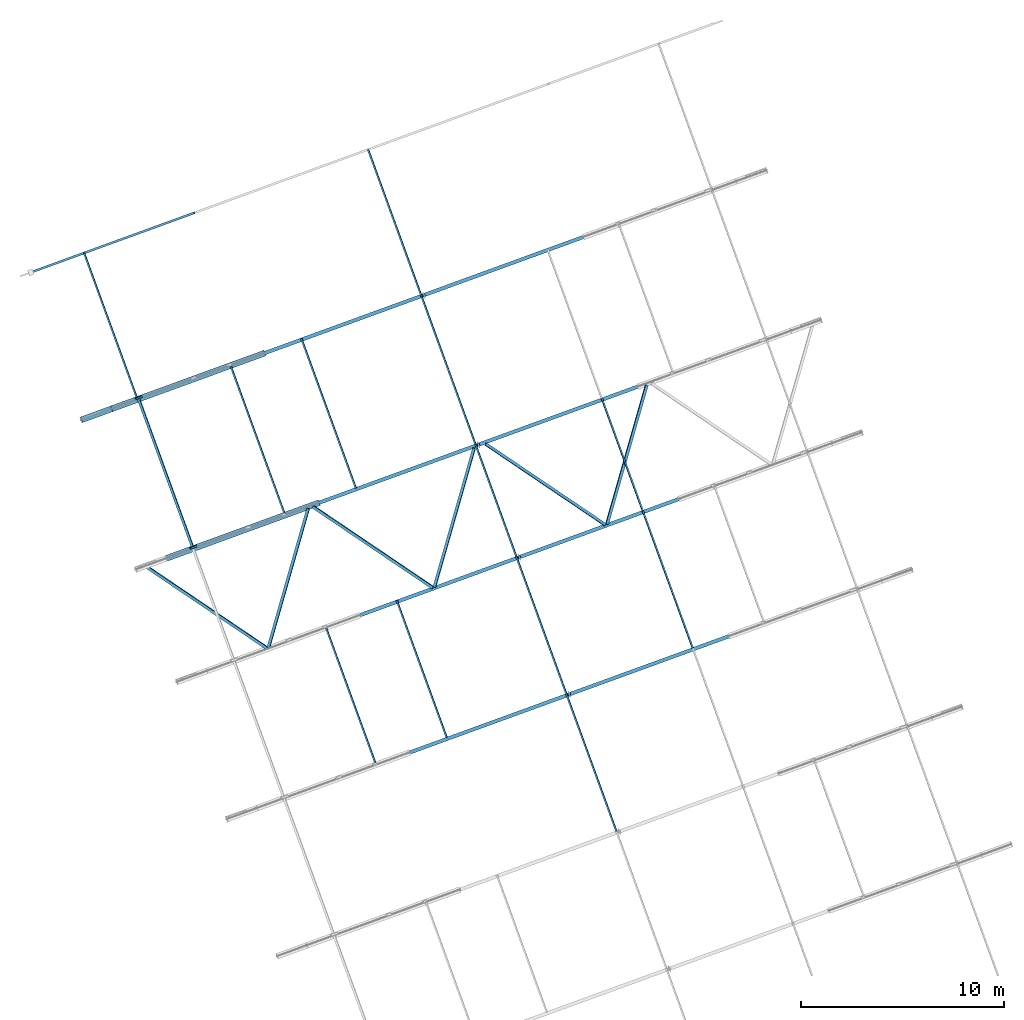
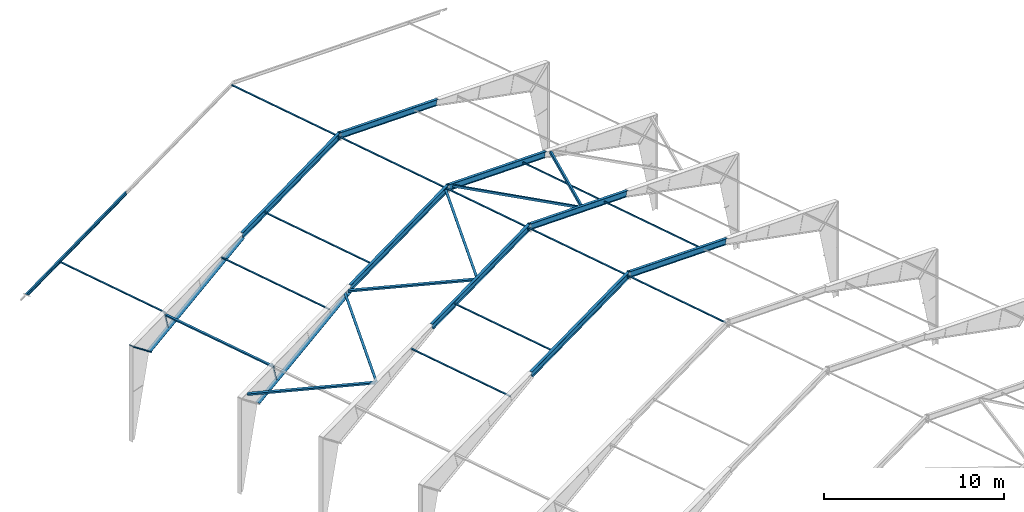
# One storey, part 3 of 17: 28 beams, 6 members, 9 openings, 34 elements without a shape of their own.
"""IFC4 building model written with IfcOpenShell, lengths in millimetres."""

from ifc_helpers import new_model, si_unit, direction, frame, origin_with_axes, place, context, subcontext, project, spatial, line, indexed_curve, outline, extrude, material, element, aggregate, save


model = new_model("IFC4")

# Units and contexts
model_context = context("Model", 3, precision=0.2, world=frame((203566.813, 116264.779, 0.0), z_axis=(0.0, 0.0, 1.0), x_axis=(1.0, 0.0, 0.0)), true_north=direction((-0.9396138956, -0.3422363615)))
body_context = subcontext(model_context, "Body", "Model", "MODEL_VIEW")
ifc_project = project(units=[si_unit("LENGTHUNIT", "METRE", prefix="MILLI"), si_unit("AREAUNIT", "SQUARE_METRE"), si_unit("VOLUMEUNIT", "CUBIC_METRE"), si_unit("MASSUNIT", "GRAM", prefix="KILO"), si_unit("TIMEUNIT", "SECOND"), si_unit("PLANEANGLEUNIT", "RADIAN"), si_unit("SOLIDANGLEUNIT", "STERADIAN"), si_unit("THERMODYNAMICTEMPERATUREUNIT", "DEGREE_CELSIUS"), si_unit("LUMINOUSINTENSITYUNIT", "LUMEN")], contexts=[model_context])

# Site, building, storey
site_placement = place(None, origin_with_axes())
site = spatial("IfcSite", under=ifc_project, at=site_placement, Name="Nobelprojektet", CompositionType="ELEMENT")
building_placement = place(site_placement, origin_with_axes())
building = spatial("IfcBuilding", under=site, at=building_placement, Name="Hall B", CompositionType="ELEMENT")
storey_placement = place(building_placement, frame((0.0, 0.0, 136000.0), z_axis=(0.0, 0.0, 1.0), x_axis=(1.0, 0.0, 0.0)))
storey = spatial("IfcBuildingStorey", under=building, at=storey_placement, Name="Plan_2", CompositionType="ELEMENT", Elevation=136000.0)

# Assembly, beam, voiding feature
assembly_1_placement = place(storey_placement, frame((128431.24503, 173667.03377, 3578.63666), z_axis=(-0.3422371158, 0.9396136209, 1.3e-09), x_axis=(0.9075966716, 0.3305755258, 0.2588206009)))
assembly_1 = element("IfcElementAssembly", 1, at=assembly_1_placement, inside=storey, Name="BEF. STOMME", PredefinedType="NOTDEFINED")
ifc_material = material(Name="S355J2", Category="STEEL")
beam_1_placement = place(assembly_1_placement, origin_with_axes())
beam_1 = element("IfcBeam", 2, at=beam_1_placement, material=ifc_material, Name="BEF. STOMME", PredefinedType="NOTDEFINED", context=body_context, shape_type="SolidModel", body=[
    extrude(outline(indexed_curve([(-55.0, -110.0), (55.0, -110.0), (55.0, -100.8), (2.95, -100.8), (2.95, 100.8), (55.0, 100.8), (55.0, 110.0), (-55.0, 110.0), (-55.0, 100.8), (-2.95, 100.8), (-2.95, -100.8), (-55.0, -100.8)], segments=[line(1, 2, 3, 4, 5, 6, 7, 8, 9, 10, 11, 12, 1)])), frame((0.0, 0.0, 0.0), z_axis=(-1.0, 0.0, 0.0), x_axis=(0.0, 0.0, 1.0)), (0.0, 0.0, -1.0), 8966.09461),
])
voiding_feature_1_placement = place(beam_1_placement, frame((0.00035, 110.0, 0.00069), z_axis=(0.0, 0.0, -1.0), x_axis=(1.0, 0.0, 0.0)))
element("IfcVoidingFeature", 3, at=voiding_feature_1_placement, cuts=beam_1, Name="CUTPART", PredefinedType="HOLE", context=body_context, shape_type="SolidModel", body=[
    extrude(outline(indexed_curve([(0.0, 0.0), (168.81121, 0.0), (0.0, 220.0)], segments=[line(1, 2, 3, 1)])), frame((0.0, 0.0, 57.5), z_axis=(0.0, 0.0, 1.0), x_axis=(1.0, 0.0, 0.0)), (0.0, 0.0, -1.0), 115.0),
])
aggregate(assembly_1, [beam_1])

# Assembly, beam
assembly_2_placement = place(storey_placement, frame((154917.13274, 152902.59492, 8316.31212), z_axis=(-0.2431885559, -0.088576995, 0.9659262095), x_axis=(-0.3422371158, 0.9396136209, 1.3e-09)))
assembly_2 = element("IfcElementAssembly", 4, at=assembly_2_placement, inside=storey, Name="BEF. STOMME", PredefinedType="NOTDEFINED")
beam_2_placement = place(assembly_2_placement, origin_with_axes())
beam_2 = element("IfcBeam", 5, at=beam_2_placement, material=ifc_material, Name="BEF. STOMME", PredefinedType="NOTDEFINED", context=body_context, shape_type="SolidModel", body=[
    extrude(outline(indexed_curve([(-40.0, -40.0), (40.0, -40.0), (40.0, 40.0), (-40.0, 40.0)], segments=[line(1, 2, 3, 4, 1)]), holes=[indexed_curve([(-36.0, -36.0), (-36.0, 36.0), (36.0, 36.0), (36.0, -36.0)], segments=[line(1, 2, 3, 4, 1)])]), frame((0.0, 0.0, 0.0), z_axis=(-1.0, 0.0, 0.0), x_axis=(0.0, 0.0, 1.0)), (0.0, 0.0, -1.0), 7199.99997),
])
aggregate(assembly_2, [beam_2])

assembly_3_placement = place(storey_placement, frame((145507.91711, 149475.45982, 5452.54212), z_axis=(-0.2431885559, -0.088576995, 0.9659262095), x_axis=(-0.3422371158, 0.9396136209, 1.3e-09)))
assembly_3 = element("IfcElementAssembly", 6, at=assembly_3_placement, inside=storey, Name="BEF. STOMME", PredefinedType="NOTDEFINED")
beam_3_placement = place(assembly_3_placement, origin_with_axes())
beam_3 = element("IfcBeam", 7, at=beam_3_placement, material=ifc_material, Name="BEF. STOMME", PredefinedType="NOTDEFINED", context=body_context, shape_type="SolidModel", body=[
    extrude(outline(indexed_curve([(-40.0, -40.0), (40.0, -40.0), (40.0, 40.0), (-40.0, 40.0)], segments=[line(1, 2, 3, 4, 1)]), holes=[indexed_curve([(-36.0, -36.0), (-36.0, 36.0), (36.0, 36.0), (36.0, -36.0)], segments=[line(1, 2, 3, 4, 1)])]), frame((0.0, 0.0, 0.0), z_axis=(-1.0, 0.0, 0.0), x_axis=(0.0, 0.0, 1.0)), (0.0, 0.0, -1.0), 7199.99997),
])
aggregate(assembly_3, [beam_3])

assembly_4_placement = place(storey_placement, frame((149018.14447, 150753.99608, 6505.31212), z_axis=(-0.2431885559, -0.088576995, 0.9659262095), x_axis=(-0.3422371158, 0.9396136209, 1.3e-09)))
assembly_4 = element("IfcElementAssembly", 8, at=assembly_4_placement, inside=storey, Name="BEF. STOMME", PredefinedType="NOTDEFINED")
beam_4_placement = place(assembly_4_placement, origin_with_axes())
beam_4 = element("IfcBeam", 9, at=beam_4_placement, material=ifc_material, Name="BEF. STOMME", PredefinedType="NOTDEFINED", context=body_context, shape_type="SolidModel", body=[
    extrude(outline(indexed_curve([(-40.0, -40.0), (40.0, -40.0), (40.0, 40.0), (-40.0, 40.0)], segments=[line(1, 2, 3, 4, 1)]), holes=[indexed_curve([(-36.0, -36.0), (-36.0, 36.0), (36.0, 36.0), (36.0, -36.0)], segments=[line(1, 2, 3, 4, 1)])]), frame((0.0, 0.0, 0.0), z_axis=(-1.0, 0.0, 0.0), x_axis=(0.0, 0.0, 1.0)), (0.0, 0.0, -1.0), 7199.99997),
])
aggregate(assembly_4, [beam_4])

assembly_5_placement = place(storey_placement, frame((161141.47181, 155169.69688, 6505.31233), z_axis=(0.9075974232, 0.3305758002, -0.2588176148), x_axis=(-0.3422371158, 0.9396136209, 1.3e-09)))
assembly_5 = element("IfcElementAssembly", 10, at=assembly_5_placement, inside=storey, Name="BEF. STOMME", PredefinedType="NOTDEFINED")
beam_5_placement = place(assembly_5_placement, origin_with_axes())
beam_5 = element("IfcBeam", 11, at=beam_5_placement, material=ifc_material, Name="BEF. STOMME", PredefinedType="NOTDEFINED", context=body_context, shape_type="SolidModel", body=[
    extrude(outline(indexed_curve([(-40.0, -40.0), (40.0, -40.0), (40.0, 40.0), (-40.0, 40.0)], segments=[line(1, 2, 3, 4, 1)]), holes=[indexed_curve([(-36.0, -36.0), (-36.0, 36.0), (36.0, 36.0), (36.0, -36.0)], segments=[line(1, 2, 3, 4, 1)])]), frame((0.0, 0.0, 0.0), z_axis=(-1.0, 0.0, 0.0), x_axis=(0.0, 0.0, 1.0)), (0.0, 0.0, -1.0), 7199.99997),
])
aggregate(assembly_5, [beam_5])

assembly_6_placement = place(storey_placement, frame((150435.19547, 165207.7749, 8316.31212), z_axis=(-0.2431885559, -0.088576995, 0.9659262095), x_axis=(-0.3422371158, 0.9396136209, 1.3e-09)))
assembly_6 = element("IfcElementAssembly", 12, at=assembly_6_placement, inside=storey, Name="BEF. STOMME", PredefinedType="NOTDEFINED")
beam_6_placement = place(assembly_6_placement, origin_with_axes())
beam_6 = element("IfcBeam", 13, at=beam_6_placement, material=ifc_material, Name="BEF. STOMME", PredefinedType="NOTDEFINED", context=body_context, shape_type="SolidModel", body=[
    extrude(outline(indexed_curve([(-40.0, -40.0), (40.0, -40.0), (40.0, 40.0), (-40.0, 40.0)], segments=[line(1, 2, 3, 4, 1)]), holes=[indexed_curve([(-36.0, -36.0), (-36.0, 36.0), (36.0, 36.0), (36.0, -36.0)], segments=[line(1, 2, 3, 4, 1)])]), frame((0.0, 0.0, 0.0), z_axis=(-1.0, 0.0, 0.0), x_axis=(0.0, 0.0, 1.0)), (0.0, 0.0, -1.0), 7849.99997),
])
aggregate(assembly_6, [beam_6])

assembly_7_placement = place(storey_placement, frame((136517.7597, 160063.0399, 4144.4785), z_axis=(-0.2431885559, -0.088576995, 0.9659262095), x_axis=(-0.3422371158, 0.9396136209, 1.3e-09)))
assembly_7 = element("IfcElementAssembly", 14, at=assembly_7_placement, inside=storey, Name="BEF. STOMME", PredefinedType="NOTDEFINED")
beam_7_placement = place(assembly_7_placement, origin_with_axes())
beam_7 = element("IfcBeam", 15, at=beam_7_placement, material=ifc_material, Name="BEF. STOMME", PredefinedType="NOTDEFINED", context=body_context, shape_type="SolidModel", body=[
    extrude(outline(indexed_curve([(-60.0, -60.0), (60.0, -60.0), (60.0, 60.0), (-60.0, 60.0)], segments=[line(1, 2, 3, 4, 1)]), holes=[indexed_curve([(-55.0, -55.0), (-55.0, 55.0), (55.0, 55.0), (55.0, -55.0)], segments=[line(1, 2, 3, 4, 1)])]), frame((0.0, 0.0, 0.0), z_axis=(-1.0, 0.0, 0.0), x_axis=(0.0, 0.0, 1.0)), (0.0, 0.0, -1.0), 7849.99997),
])
aggregate(assembly_7, [beam_7])

assembly_8_placement = place(storey_placement, frame((141025.97984, 161780.6398, 5452.54212), z_axis=(-0.2431885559, -0.088576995, 0.9659262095), x_axis=(-0.3422371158, 0.9396136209, 1.3e-09)))
assembly_8 = element("IfcElementAssembly", 16, at=assembly_8_placement, inside=storey, Name="BEF. STOMME", PredefinedType="NOTDEFINED")
beam_8_placement = place(assembly_8_placement, origin_with_axes())
beam_8 = element("IfcBeam", 17, at=beam_8_placement, material=ifc_material, Name="BEF. STOMME", PredefinedType="NOTDEFINED", context=body_context, shape_type="SolidModel", body=[
    extrude(outline(indexed_curve([(-40.0, -40.0), (40.0, -40.0), (40.0, 40.0), (-40.0, 40.0)], segments=[line(1, 2, 3, 4, 1)]), holes=[indexed_curve([(-36.0, -36.0), (-36.0, 36.0), (36.0, 36.0), (36.0, -36.0)], segments=[line(1, 2, 3, 4, 1)])]), frame((0.0, 0.0, 0.0), z_axis=(-1.0, 0.0, 0.0), x_axis=(0.0, 0.0, 1.0)), (0.0, 0.0, -1.0), 7849.99997),
])
aggregate(assembly_8, [beam_8])

assembly_9_placement = place(storey_placement, frame((144536.2072, 163059.17606, 6505.31212), z_axis=(-0.2431885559, -0.088576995, 0.9659262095), x_axis=(-0.3422371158, 0.9396136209, 1.3e-09)))
assembly_9 = element("IfcElementAssembly", 18, at=assembly_9_placement, inside=storey, Name="BEF. STOMME", PredefinedType="NOTDEFINED")
beam_9_placement = place(assembly_9_placement, origin_with_axes())
beam_9 = element("IfcBeam", 19, at=beam_9_placement, material=ifc_material, Name="BEF. STOMME", PredefinedType="NOTDEFINED", context=body_context, shape_type="SolidModel", body=[
    extrude(outline(indexed_curve([(-40.0, -40.0), (40.0, -40.0), (40.0, 40.0), (-40.0, 40.0)], segments=[line(1, 2, 3, 4, 1)]), holes=[indexed_curve([(-36.0, -36.0), (-36.0, 36.0), (36.0, 36.0), (36.0, -36.0)], segments=[line(1, 2, 3, 4, 1)])]), frame((0.0, 0.0, 0.0), z_axis=(-1.0, 0.0, 0.0), x_axis=(0.0, 0.0, 1.0)), (0.0, 0.0, -1.0), 7849.99997),
])
aggregate(assembly_9, [beam_9])

assembly_10_placement = place(storey_placement, frame((157381.23998, 146137.37685, 8316.31212), z_axis=(-0.2431885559, -0.088576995, 0.9659262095), x_axis=(-0.3422371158, 0.9396136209, 1.3e-09)))
assembly_10 = element("IfcElementAssembly", 20, at=assembly_10_placement, inside=storey, Name="BEF. STOMME", PredefinedType="NOTDEFINED")
beam_10_placement = place(assembly_10_placement, origin_with_axes())
beam_10 = element("IfcBeam", 21, at=beam_10_placement, material=ifc_material, Name="BEF. STOMME", PredefinedType="NOTDEFINED", context=body_context, shape_type="SolidModel", body=[
    extrude(outline(indexed_curve([(-40.0, -40.0), (40.0, -40.0), (40.0, 40.0), (-40.0, 40.0)], segments=[line(1, 2, 3, 4, 1)]), holes=[indexed_curve([(-36.0, -36.0), (-36.0, 36.0), (36.0, 36.0), (36.0, -36.0)], segments=[line(1, 2, 3, 4, 1)])]), frame((0.0, 0.0, 0.0), z_axis=(-1.0, 0.0, 0.0), x_axis=(0.0, 0.0, 1.0)), (0.0, 0.0, -1.0), 7199.99997),
])
aggregate(assembly_10, [beam_10])

assembly_11_placement = place(storey_placement, frame((152453.02551, 159667.81298, 8316.31212), z_axis=(-0.2431885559, -0.088576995, 0.9659262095), x_axis=(-0.3422371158, 0.9396136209, 1.3e-09)))
assembly_11 = element("IfcElementAssembly", 22, at=assembly_11_placement, inside=storey, Name="BEF. STOMME", PredefinedType="NOTDEFINED")
beam_11_placement = place(assembly_11_placement, origin_with_axes())
beam_11 = element("IfcBeam", 23, at=beam_11_placement, material=ifc_material, Name="BEF. STOMME", PredefinedType="NOTDEFINED", context=body_context, shape_type="SolidModel", body=[
    extrude(outline(indexed_curve([(-40.0, -40.0), (40.0, -40.0), (40.0, 40.0), (-40.0, 40.0)], segments=[line(1, 2, 3, 4, 1)]), holes=[indexed_curve([(-36.0, -36.0), (-36.0, 36.0), (36.0, 36.0), (36.0, -36.0)], segments=[line(1, 2, 3, 4, 1)])]), frame((0.0, 0.0, 0.0), z_axis=(-1.0, 0.0, 0.0), x_axis=(0.0, 0.0, 1.0)), (0.0, 0.0, -1.0), 5899.99997),
])
aggregate(assembly_11, [beam_11])

assembly_12_placement = place(storey_placement, frame((158677.36457, 161934.91496, 6505.31233), z_axis=(0.9075974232, 0.3305758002, -0.2588176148), x_axis=(-0.3422371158, 0.9396136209, 1.3e-09)))
assembly_12 = element("IfcElementAssembly", 24, at=assembly_12_placement, inside=storey, Name="BEF. STOMME", PredefinedType="NOTDEFINED")
beam_12_placement = place(assembly_12_placement, origin_with_axes())
beam_12 = element("IfcBeam", 25, at=beam_12_placement, material=ifc_material, Name="BEF. STOMME", PredefinedType="NOTDEFINED", context=body_context, shape_type="SolidModel", body=[
    extrude(outline(indexed_curve([(-40.0, -40.0), (40.0, -40.0), (40.0, 40.0), (-40.0, 40.0)], segments=[line(1, 2, 3, 4, 1)]), holes=[indexed_curve([(-36.0, -36.0), (-36.0, 36.0), (36.0, 36.0), (36.0, -36.0)], segments=[line(1, 2, 3, 4, 1)])]), frame((0.0, 0.0, 0.0), z_axis=(-1.0, 0.0, 0.0), x_axis=(0.0, 0.0, 1.0)), (0.0, 0.0, -1.0), 5899.99997),
])
aggregate(assembly_12, [beam_12])

assembly_13_placement = place(storey_placement, frame((147772.93295, 172517.02925, 8316.31212), z_axis=(-0.2431885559, -0.088576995, 0.9659262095), x_axis=(-0.3422371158, 0.9396136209, 1.3e-09)))
assembly_13 = element("IfcElementAssembly", 26, at=assembly_13_placement, inside=storey, Name="BEF. STOMME", PredefinedType="NOTDEFINED")
beam_13_placement = place(assembly_13_placement, origin_with_axes())
beam_13 = element("IfcBeam", 27, at=beam_13_placement, material=ifc_material, Name="BEF. STOMME", PredefinedType="NOTDEFINED", context=body_context, shape_type="SolidModel", body=[
    extrude(outline(indexed_curve([(-40.0, -40.0), (40.0, -40.0), (40.0, 40.0), (-40.0, 40.0)], segments=[line(1, 2, 3, 4, 1)]), holes=[indexed_curve([(-36.0, -36.0), (-36.0, 36.0), (36.0, 36.0), (36.0, -36.0)], segments=[line(1, 2, 3, 4, 1)])]), frame((0.0, 0.0, 0.0), z_axis=(-1.0, 0.0, 0.0), x_axis=(0.0, 0.0, 1.0)), (0.0, 0.0, -1.0), 7699.99997),
])
aggregate(assembly_13, [beam_13])

assembly_14_placement = place(storey_placement, frame((133772.54906, 167417.64489, 4350.33212), z_axis=(-0.2431885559, -0.088576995, 0.9659262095), x_axis=(-0.3422371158, 0.9396136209, 1.3e-09)))
assembly_14 = element("IfcElementAssembly", 28, at=assembly_14_placement, inside=storey, Name="BEF. STOMME", PredefinedType="NOTDEFINED")
beam_14_placement = place(assembly_14_placement, origin_with_axes())
beam_14 = element("IfcBeam", 29, at=beam_14_placement, material=ifc_material, Name="BEF. STOMME", PredefinedType="NOTDEFINED", context=body_context, shape_type="SolidModel", body=[
    extrude(outline(indexed_curve([(-40.0, -40.0), (40.0, -40.0), (40.0, 40.0), (-40.0, 40.0)], segments=[line(1, 2, 3, 4, 1)]), holes=[indexed_curve([(-36.0, -36.0), (-36.0, 36.0), (36.0, 36.0), (36.0, -36.0)], segments=[line(1, 2, 3, 4, 1)])]), frame((0.0, 0.0, 0.0), z_axis=(-1.0, 0.0, 0.0), x_axis=(0.0, 0.0, 1.0)), (0.0, 0.0, -1.0), 7699.99997),
])
aggregate(assembly_14, [beam_14])

assembly_15_placement = place(storey_placement, frame((134242.71401, 159160.45447, 3677.93853), z_axis=(-0.5078136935, -0.8232990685, -0.2535821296), x_axis=(0.8186525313, -0.5528393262, 0.155488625)))
assembly_15 = element("IfcElementAssembly", 30, at=assembly_15_placement, inside=storey, Name="BEFINTLIG", PredefinedType="NOTDEFINED")
beam_15_placement = place(assembly_15_placement, origin_with_axes())
beam_15 = element("IfcBeam", 31, at=beam_15_placement, material=ifc_material, Name="BEFINTLIG", PredefinedType="NOTDEFINED", context=body_context, shape_type="SolidModel", body=[
    extrude(outline(indexed_curve([(-70.0, -70.0), (70.0, -70.0), (70.0, 70.0), (-70.0, 70.0)], segments=[line(1, 2, 3, 4, 1)]), holes=[indexed_curve([(-65.0, -65.0), (-65.0, 65.0), (65.0, 65.0), (65.0, -65.0)], segments=[line(1, 2, 3, 4, 1)])]), frame((0.0, 0.0, 0.0), z_axis=(-1.0, 0.0, 0.0), x_axis=(0.0, 0.0, 1.0)), (0.0, 0.0, -1.0), 7216.41212),
])
aggregate(assembly_15, [beam_15])

assembly_16_placement = place(storey_placement, frame((142185.66991, 162052.32074, 5942.85229), z_axis=(-0.9362150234, 0.2979418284, -0.1863654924), x_axis=(-0.2713273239, -0.9498445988, -0.155488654)))
assembly_16 = element("IfcElementAssembly", 32, at=assembly_16_placement, inside=storey, Name="BEFINTLIG", PredefinedType="NOTDEFINED")
beam_16_placement = place(assembly_16_placement, origin_with_axes())
beam_16 = element("IfcBeam", 33, at=beam_16_placement, material=ifc_material, Name="BEFINTLIG", PredefinedType="NOTDEFINED", context=body_context, shape_type="SolidModel", body=[
    extrude(outline(indexed_curve([(-70.0, -70.0), (70.0, -70.0), (70.0, 70.0), (-70.0, 70.0)], segments=[line(1, 2, 3, 4, 1)]), holes=[indexed_curve([(-65.0, -65.0), (-65.0, 65.0), (65.0, 65.0), (65.0, -65.0)], segments=[line(1, 2, 3, 4, 1)])]), frame((0.0, 0.0, 0.0), z_axis=(-1.0, 0.0, 0.0), x_axis=(0.0, 0.0, 1.0)), (0.0, 0.0, -1.0), 7216.41212),
])
aggregate(assembly_16, [beam_16])

assembly_17_placement = place(storey_placement, frame((142423.63852, 162140.20695, 6000.53853), z_axis=(-0.5078136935, -0.8232990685, -0.2535821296), x_axis=(0.8186525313, -0.5528393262, 0.155488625)))
assembly_17 = element("IfcElementAssembly", 34, at=assembly_17_placement, inside=storey, Name="BEFINTLIG", PredefinedType="NOTDEFINED")
beam_17_placement = place(assembly_17_placement, origin_with_axes())
beam_17 = element("IfcBeam", 35, at=beam_17_placement, material=ifc_material, Name="BEFINTLIG", PredefinedType="NOTDEFINED", context=body_context, shape_type="SolidModel", body=[
    extrude(outline(indexed_curve([(-70.0, -70.0), (70.0, -70.0), (70.0, 70.0), (-70.0, 70.0)], segments=[line(1, 2, 3, 4, 1)]), holes=[indexed_curve([(-65.0, -65.0), (-65.0, 65.0), (65.0, 65.0), (65.0, -65.0)], segments=[line(1, 2, 3, 4, 1)])]), frame((0.0, 0.0, 0.0), z_axis=(-1.0, 0.0, 0.0), x_axis=(0.0, 0.0, 1.0)), (0.0, 0.0, -1.0), 7216.41212),
])
aggregate(assembly_17, [beam_17])

assembly_18_placement = place(storey_placement, frame((150366.59443, 165032.07322, 8265.45229), z_axis=(-0.9362150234, 0.2979418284, -0.1863654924), x_axis=(-0.2713273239, -0.9498445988, -0.155488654)))
assembly_18 = element("IfcElementAssembly", 36, at=assembly_18_placement, inside=storey, Name="BEFINTLIG", PredefinedType="NOTDEFINED")
beam_18_placement = place(assembly_18_placement, origin_with_axes())
beam_18 = element("IfcBeam", 37, at=beam_18_placement, material=ifc_material, Name="BEFINTLIG", PredefinedType="NOTDEFINED", context=body_context, shape_type="SolidModel", body=[
    extrude(outline(indexed_curve([(-70.0, -70.0), (70.0, -70.0), (70.0, 70.0), (-70.0, 70.0)], segments=[line(1, 2, 3, 4, 1)]), holes=[indexed_curve([(-65.0, -65.0), (-65.0, 65.0), (65.0, 65.0), (65.0, -65.0)], segments=[line(1, 2, 3, 4, 1)])]), frame((0.0, 0.0, 0.0), z_axis=(-1.0, 0.0, 0.0), x_axis=(0.0, 0.0, 1.0)), (0.0, 0.0, -1.0), 7216.41212),
])
aggregate(assembly_18, [beam_18])

assembly_19_placement = place(storey_placement, frame((158868.25346, 168129.85787, 6000.53853), z_axis=(-0.9183547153, 0.3038432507, 0.2535821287), x_axis=(-0.271327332, -0.9498446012, 0.155488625)))
assembly_19 = element("IfcElementAssembly", 38, at=assembly_19_placement, inside=storey, Name="BEFINTLIG", PredefinedType="NOTDEFINED")
beam_19_placement = place(assembly_19_placement, origin_with_axes())
beam_19 = element("IfcBeam", 39, at=beam_19_placement, material=ifc_material, Name="BEFINTLIG", PredefinedType="NOTDEFINED", context=body_context, shape_type="SolidModel", body=[
    extrude(outline(indexed_curve([(-70.0, -70.0), (70.0, -70.0), (70.0, 70.0), (-70.0, 70.0)], segments=[line(1, 2, 3, 4, 1)]), holes=[indexed_curve([(-65.0, -65.0), (-65.0, 65.0), (65.0, 65.0), (65.0, -65.0)], segments=[line(1, 2, 3, 4, 1)])]), frame((0.0, 0.0, 0.0), z_axis=(-1.0, 0.0, 0.0), x_axis=(0.0, 0.0, 1.0)), (0.0, 0.0, -1.0), 7216.41212),
])
aggregate(assembly_19, [beam_19])

assembly_20_placement = place(storey_placement, frame((150926.07607, 165235.85419, 8265.45229), z_axis=(-0.5252856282, -0.8302667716, 0.1863654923), x_axis=(0.8186525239, -0.5528393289, -0.155488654)))
assembly_20 = element("IfcElementAssembly", 40, at=assembly_20_placement, inside=storey, Name="BEFINTLIG", PredefinedType="NOTDEFINED")
beam_20_placement = place(assembly_20_placement, origin_with_axes())
beam_20 = element("IfcBeam", 41, at=beam_20_placement, material=ifc_material, Name="BEFINTLIG", PredefinedType="NOTDEFINED", context=body_context, shape_type="SolidModel", body=[
    extrude(outline(indexed_curve([(-70.0, -70.0), (70.0, -70.0), (70.0, 70.0), (-70.0, 70.0)], segments=[line(1, 2, 3, 4, 1)]), holes=[indexed_curve([(-65.0, -65.0), (-65.0, 65.0), (65.0, 65.0), (65.0, -65.0)], segments=[line(1, 2, 3, 4, 1)])]), frame((0.0, 0.0, 0.0), z_axis=(-1.0, 0.0, 0.0), x_axis=(0.0, 0.0, 1.0)), (0.0, 0.0, -1.0), 7216.41212),
])
aggregate(assembly_20, [beam_20])

# Assembly, beam, voiding feature
assembly_21_placement = place(storey_placement, frame((147164.10401, 150014.91477, 6043.94851), z_axis=(-0.3422371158, 0.9396136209, 1.3e-09), x_axis=(0.9075966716, 0.3305755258, 0.2588206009)))
assembly_21 = element("IfcElementAssembly", 42, at=assembly_21_placement, inside=storey, Name="BEF. STOMME", PredefinedType="NOTDEFINED")
beam_21_placement = place(assembly_21_placement, origin_with_axes())
beam_21 = element("IfcBeam", 43, at=beam_21_placement, material=ifc_material, Name="BEF. STOMME", PredefinedType="NOTDEFINED", context=body_context, shape_type="SolidModel", body=[
    extrude(outline(indexed_curve([(-90.0, -200.0), (90.0, -200.0), (90.0, -186.5), (4.3, -186.5), (4.3, 186.5), (90.0, 186.5), (90.0, 200.0), (-90.0, 200.0), (-90.0, 186.5), (-4.3, 186.5), (-4.3, -186.5), (-90.0, -186.5)], segments=[line(1, 2, 3, 4, 5, 6, 7, 8, 9, 10, 11, 12, 1)])), frame((0.0, 0.0, 0.0), z_axis=(-1.0, 0.0, 0.0), x_axis=(0.0, 0.0, 1.0)), (0.0, 0.0, -1.0), 8807.09025),
])
voiding_feature_2_placement = place(beam_21_placement, frame((123203.12855, 35179.97993, 50983.12117), z_axis=(0.9075574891, 0.2431808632, -0.3423484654), x_axis=(0.252427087, 0.3355889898, 0.9075574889)))
element("IfcVoidingFeature", 44, at=voiding_feature_2_placement, cuts=beam_21, Name="CUTPART", PredefinedType="HOLE", context=body_context, shape_type="SolidModel", body=[
    extrude(outline(indexed_curve([(0.0, 0.0), (180.00355, 0.0), (71.46317, 405.07559), (0.0, 400.0)], segments=[line(1, 2, 3, 4, 1)])), frame((0.0, 0.0, 92.5), z_axis=(0.0, 0.0, 1.0), x_axis=(1.0, 0.0, 0.0)), (0.0, 0.0, -1.0), 185.0),
])
aggregate(assembly_21, [beam_21])

assembly_22_placement = place(storey_placement, frame((144699.99677, 156780.13284, 6043.94851), z_axis=(-0.3422371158, 0.9396136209, 1.3e-09), x_axis=(0.9075966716, 0.3305755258, 0.2588206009)))
assembly_22 = element("IfcElementAssembly", 45, at=assembly_22_placement, inside=storey, Name="BEF. STOMME", PredefinedType="NOTDEFINED")
beam_22_placement = place(assembly_22_placement, origin_with_axes())
beam_22 = element("IfcBeam", 46, at=beam_22_placement, material=ifc_material, Name="BEF. STOMME", PredefinedType="NOTDEFINED", context=body_context, shape_type="SolidModel", body=[
    extrude(outline(indexed_curve([(-90.0, -200.0), (90.0, -200.0), (90.0, -186.5), (4.3, -186.5), (4.3, 186.5), (90.0, 186.5), (90.0, 200.0), (-90.0, 200.0), (-90.0, 186.5), (-4.3, 186.5), (-4.3, -186.5), (-90.0, -186.5)], segments=[line(1, 2, 3, 4, 5, 6, 7, 8, 9, 10, 11, 12, 1)])), frame((0.0, 0.0, 0.0), z_axis=(-1.0, 0.0, 0.0), x_axis=(0.0, 0.0, 1.0)), (0.0, 0.0, -1.0), 8807.09025),
])
voiding_feature_3_placement = place(beam_22_placement, frame((123203.12855, 35179.97993, 50983.12117), z_axis=(0.9075574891, 0.2431808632, -0.3423484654), x_axis=(0.252427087, 0.3355889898, 0.9075574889)))
element("IfcVoidingFeature", 47, at=voiding_feature_3_placement, cuts=beam_22, Name="CUTPART", PredefinedType="HOLE", context=body_context, shape_type="SolidModel", body=[
    extrude(outline(indexed_curve([(0.0, 0.0), (180.00355, 0.0), (71.46317, 405.07559), (0.0, 400.0)], segments=[line(1, 2, 3, 4, 1)])), frame((0.0, 0.0, 92.5), z_axis=(0.0, 0.0, 1.0), x_axis=(1.0, 0.0, 0.0)), (0.0, 0.0, -1.0), 185.0),
])
aggregate(assembly_22, [beam_22])

# Assembly, member
assembly_23_placement = place(storey_placement, frame((135161.65787, 159585.1437, 2495.62394), z_axis=(0.3620433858, 0.131867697, -0.9227868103), x_axis=(0.8670630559, 0.315811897, 0.385310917)))
assembly_23 = element("IfcElementAssembly", 48, at=assembly_23_placement, inside=storey, Name="BEF. STOMME", PredefinedType="NOTDEFINED")
member_1_placement = place(assembly_23_placement, origin_with_axes())
member_1 = element("IfcMember", 49, at=member_1_placement, material=ifc_material, Name="BEF. STOMME", PredefinedType="NOTDEFINED", context=body_context, shape_type="SolidModel", body=[
    extrude(outline(indexed_curve([(-10.0, -150.0), (10.0, -150.0), (10.0, 150.0), (-10.0, 150.0)], segments=[line(1, 2, 3, 4, 1)])), frame((0.0, 0.0, 0.0), z_axis=(-1.0, 0.0, 0.0), x_axis=(0.0, 0.0, 1.0)), (0.0, 0.0, -1.0), 8726.68705),
])
aggregate(assembly_23, [member_1])

# Assembly, beam, voiding feature
assembly_24_placement = place(storey_placement, frame((142680.79779, 162323.85321, 6043.94851), z_axis=(-0.3422371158, 0.9396136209, 1.3e-09), x_axis=(0.9075966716, 0.3305755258, 0.2588206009)))
assembly_24 = element("IfcElementAssembly", 50, at=assembly_24_placement, inside=storey, Name="BEF. STOMME", PredefinedType="NOTDEFINED")
beam_23_placement = place(assembly_24_placement, origin_with_axes())
beam_23 = element("IfcBeam", 51, at=beam_23_placement, material=ifc_material, Name="BEF. STOMME", PredefinedType="NOTDEFINED", context=body_context, shape_type="SolidModel", body=[
    extrude(outline(indexed_curve([(-90.0, -200.0), (90.0, -200.0), (90.0, -186.5), (4.3, -186.5), (4.3, 186.5), (90.0, 186.5), (90.0, 200.0), (-90.0, 200.0), (-90.0, 186.5), (-4.3, 186.5), (-4.3, -186.5), (-90.0, -186.5)], segments=[line(1, 2, 3, 4, 5, 6, 7, 8, 9, 10, 11, 12, 1)])), frame((0.0, 0.0, 0.0), z_axis=(-1.0, 0.0, 0.0), x_axis=(0.0, 0.0, 1.0)), (0.0, 0.0, -1.0), 8807.09025),
])
voiding_feature_4_placement = place(beam_23_placement, frame((123203.12855, 35179.97993, 50983.12117), z_axis=(0.9075574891, 0.2431808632, -0.3423484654), x_axis=(0.252427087, 0.3355889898, 0.9075574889)))
element("IfcVoidingFeature", 52, at=voiding_feature_4_placement, cuts=beam_23, Name="CUTPART", PredefinedType="HOLE", context=body_context, shape_type="SolidModel", body=[
    extrude(outline(indexed_curve([(0.0, 0.0), (180.00355, 0.0), (71.46317, 405.07559), (0.0, 400.0)], segments=[line(1, 2, 3, 4, 1)])), frame((0.0, 0.0, 92.5), z_axis=(0.0, 0.0, 1.0), x_axis=(1.0, 0.0, 0.0)), (0.0, 0.0, -1.0), 185.0),
])
aggregate(assembly_24, [beam_23])

# Assembly, member
assembly_25_placement = place(storey_placement, frame((136682.06716, 160192.1384, 3191.0742), z_axis=(0.9075966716, 0.3305755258, 0.2588206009), x_axis=(-0.2431885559, -0.088576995, 0.9659262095)))
assembly_25 = element("IfcElementAssembly", 53, at=assembly_25_placement, inside=storey, Name="BEF. STOMME", PredefinedType="NOTDEFINED")
member_2_placement = place(assembly_25_placement, origin_with_axes())
member_2 = element("IfcMember", 54, at=member_2_placement, material=ifc_material, Name="BEF. STOMME", PredefinedType="NOTDEFINED", context=body_context, shape_type="SolidModel", body=[
    extrude(outline(indexed_curve([(-7.5, -50.0), (7.5, -50.0), (7.5, 50.0), (-7.5, 50.0)], segments=[line(1, 2, 3, 4, 1)])), frame((0.0, 0.0, 0.0), z_axis=(-1.0, 0.0, 0.0), x_axis=(0.0, 0.0, 1.0)), (0.0, 0.0, -1.0), 1288.01813),
])
aggregate(assembly_25, [member_2])

assembly_26_placement = place(storey_placement, frame((130999.78225, 166423.75432, 3646.88866), z_axis=(-0.5718109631, -0.2082717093, -0.7935081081), x_axis=(0.7455910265, 0.2715679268, -0.6085596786)))
assembly_26 = element("IfcElementAssembly", 55, at=assembly_26_placement, inside=storey, Name="BEF. STOMME", PredefinedType="NOTDEFINED")
member_3_placement = place(assembly_26_placement, origin_with_axes())
member_3 = element("IfcMember", 56, at=member_3_placement, material=ifc_material, Name="BEF. STOMME", PredefinedType="NOTDEFINED", context=body_context, shape_type="SolidModel", body=[
    extrude(outline(indexed_curve([(-12.5, -150.0), (12.5, -150.0), (12.5, 150.0), (-12.5, 150.0)], segments=[line(1, 2, 3, 4, 1)])), frame((0.0, 0.0, 0.0), z_axis=(-1.0, 0.0, 0.0), x_axis=(0.0, 0.0, 1.0)), (0.0, 0.0, -1.0), 1980.00858),
])
aggregate(assembly_26, [member_3])

assembly_27_placement = place(storey_placement, frame((131014.07378, 166428.95975, 3666.72866), z_axis=(-0.5718109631, -0.2082717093, -0.7935081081), x_axis=(0.7455910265, 0.2715679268, -0.6085596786)))
assembly_27 = element("IfcElementAssembly", 57, at=assembly_27_placement, inside=storey, Name="BEF. STOMME", PredefinedType="NOTDEFINED")
member_4_placement = place(assembly_27_placement, origin_with_axes())
member_4 = element("IfcMember", 58, at=member_4_placement, material=ifc_material, Name="BEF. STOMME", PredefinedType="NOTDEFINED", context=body_context, shape_type="SolidModel", body=[
    extrude(outline(indexed_curve([(-12.5, -150.0), (12.5, -150.0), (12.5, 150.0), (-12.5, 150.0)], segments=[line(1, 2, 3, 4, 1)])), frame((0.0, 0.0, 0.0), z_axis=(-1.0, 0.0, 0.0), x_axis=(0.0, 0.0, 1.0)), (0.0, 0.0, -1.0), 1980.00858),
])
aggregate(assembly_27, [member_4])

assembly_28_placement = place(storey_placement, frame((132475.09651, 166961.11062, 2495.62394), z_axis=(0.3620433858, 0.131867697, -0.9227868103), x_axis=(0.8670630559, 0.315811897, 0.385310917)))
assembly_28 = element("IfcElementAssembly", 59, at=assembly_28_placement, inside=storey, Name="BEF. STOMME", PredefinedType="NOTDEFINED")
member_5_placement = place(assembly_28_placement, origin_with_axes())
member_5 = element("IfcMember", 60, at=member_5_placement, material=ifc_material, Name="BEF. STOMME", PredefinedType="NOTDEFINED", context=body_context, shape_type="SolidModel", body=[
    extrude(outline(indexed_curve([(-10.0, -150.0), (10.0, -150.0), (10.0, 150.0), (-10.0, 150.0)], segments=[line(1, 2, 3, 4, 1)])), frame((0.0, 0.0, 0.0), z_axis=(-1.0, 0.0, 0.0), x_axis=(0.0, 0.0, 1.0)), (0.0, 0.0, -1.0), 8726.68705),
])
aggregate(assembly_28, [member_5])

# Assembly, beam, voiding feature
assembly_29_placement = place(storey_placement, frame((139994.23643, 169699.82013, 6043.94851), z_axis=(-0.3422371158, 0.9396136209, 1.3e-09), x_axis=(0.9075966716, 0.3305755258, 0.2588206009)))
assembly_29 = element("IfcElementAssembly", 61, at=assembly_29_placement, inside=storey, Name="BEF. STOMME", PredefinedType="NOTDEFINED")
beam_24_placement = place(assembly_29_placement, origin_with_axes())
beam_24 = element("IfcBeam", 62, at=beam_24_placement, material=ifc_material, Name="BEF. STOMME", PredefinedType="NOTDEFINED", context=body_context, shape_type="SolidModel", body=[
    extrude(outline(indexed_curve([(-90.0, -200.0), (90.0, -200.0), (90.0, -186.5), (4.3, -186.5), (4.3, 186.5), (90.0, 186.5), (90.0, 200.0), (-90.0, 200.0), (-90.0, 186.5), (-4.3, 186.5), (-4.3, -186.5), (-90.0, -186.5)], segments=[line(1, 2, 3, 4, 5, 6, 7, 8, 9, 10, 11, 12, 1)])), frame((0.0, 0.0, 0.0), z_axis=(-1.0, 0.0, 0.0), x_axis=(0.0, 0.0, 1.0)), (0.0, 0.0, -1.0), 8807.09025),
])
voiding_feature_5_placement = place(beam_24_placement, frame((123203.12855, 35179.97993, 50983.12117), z_axis=(0.9075574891, 0.2431808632, -0.3423484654), x_axis=(0.252427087, 0.3355889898, 0.9075574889)))
element("IfcVoidingFeature", 63, at=voiding_feature_5_placement, cuts=beam_24, Name="CUTPART", PredefinedType="HOLE", context=body_context, shape_type="SolidModel", body=[
    extrude(outline(indexed_curve([(0.0, 0.0), (180.00355, 0.0), (71.46317, 405.07559), (0.0, 400.0)], segments=[line(1, 2, 3, 4, 1)])), frame((0.0, 0.0, 92.5), z_axis=(0.0, 0.0, 1.0), x_axis=(1.0, 0.0, 0.0)), (0.0, 0.0, -1.0), 185.0),
])
aggregate(assembly_29, [beam_24])

# Assembly, member
assembly_30_placement = place(storey_placement, frame((133995.5058, 167568.10532, 3191.0742), z_axis=(0.9075966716, 0.3305755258, 0.2588206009), x_axis=(-0.2431885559, -0.088576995, 0.9659262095)))
assembly_30 = element("IfcElementAssembly", 64, at=assembly_30_placement, inside=storey, Name="BEF. STOMME", PredefinedType="NOTDEFINED")
member_6_placement = place(assembly_30_placement, origin_with_axes())
member_6 = element("IfcMember", 65, at=member_6_placement, material=ifc_material, Name="BEF. STOMME", PredefinedType="NOTDEFINED", context=body_context, shape_type="SolidModel", body=[
    extrude(outline(indexed_curve([(-7.5, -50.0), (7.5, -50.0), (7.5, 50.0), (-7.5, 50.0)], segments=[line(1, 2, 3, 4, 1)])), frame((0.0, 0.0, 0.0), z_axis=(-1.0, 0.0, 0.0), x_axis=(0.0, 0.0, 1.0)), (0.0, 0.0, -1.0), 1288.01813),
])
aggregate(assembly_30, [member_6])

# Assembly, beam, voiding feature
assembly_31_placement = place(storey_placement, frame((162958.80362, 155767.84607, 6043.94632), z_axis=(0.3422371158, -0.9396136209, 1.3e-09), x_axis=(-0.9075966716, -0.3305755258, 0.2588206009)))
assembly_31 = element("IfcElementAssembly", 66, at=assembly_31_placement, inside=storey, Name="BEF. STOMME", PredefinedType="NOTDEFINED")
beam_25_placement = place(assembly_31_placement, origin_with_axes())
beam_25 = element("IfcBeam", 67, at=beam_25_placement, material=ifc_material, Name="BEF. STOMME", PredefinedType="NOTDEFINED", context=body_context, shape_type="SolidModel", body=[
    extrude(outline(indexed_curve([(-90.0, -200.0), (90.0, -200.0), (90.0, -186.5), (4.3, -186.5), (4.3, 186.5), (90.0, 186.5), (90.0, 200.0), (-90.0, 200.0), (-90.0, 186.5), (-4.3, 186.5), (-4.3, -186.5), (-90.0, -186.5)], segments=[line(1, 2, 3, 4, 5, 6, 7, 8, 9, 10, 11, 12, 1)])), frame((0.0, 0.0, 0.0), z_axis=(-1.0, 0.0, 0.0), x_axis=(0.0, 0.0, 1.0)), (0.0, 0.0, -1.0), 8807.09025),
])
voiding_feature_6_placement = place(beam_25_placement, frame((-108151.70461, -26811.76031, -51272.26457), z_axis=(0.9075574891, 0.2431808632, -0.3423484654), x_axis=(0.252427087, 0.3355889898, 0.9075574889)))
element("IfcVoidingFeature", 68, at=voiding_feature_6_placement, cuts=beam_25, Name="CUTPART", PredefinedType="HOLE", context=body_context, shape_type="SolidModel", body=[
    extrude(outline(indexed_curve([(0.0, 0.0), (180.00355, 0.0), (71.46317, 405.07559), (0.0, 400.0)], segments=[line(1, 2, 3, 4, 1)])), frame((0.0, 0.0, 92.5), z_axis=(0.0, 0.0, 1.0), x_axis=(1.0, 0.0, 0.0)), (0.0, 0.0, -1.0), 185.0),
])
aggregate(assembly_31, [beam_25])

assembly_32_placement = place(storey_placement, frame((160494.69639, 162533.06414, 6043.94632), z_axis=(0.3422371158, -0.9396136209, 1.3e-09), x_axis=(-0.9075966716, -0.3305755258, 0.2588206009)))
assembly_32 = element("IfcElementAssembly", 69, at=assembly_32_placement, inside=storey, Name="BEF. STOMME", PredefinedType="NOTDEFINED")
beam_26_placement = place(assembly_32_placement, origin_with_axes())
beam_26 = element("IfcBeam", 70, at=beam_26_placement, material=ifc_material, Name="BEF. STOMME", PredefinedType="NOTDEFINED", context=body_context, shape_type="SolidModel", body=[
    extrude(outline(indexed_curve([(-90.0, -200.0), (90.0, -200.0), (90.0, -186.5), (4.3, -186.5), (4.3, 186.5), (90.0, 186.5), (90.0, 200.0), (-90.0, 200.0), (-90.0, 186.5), (-4.3, 186.5), (-4.3, -186.5), (-90.0, -186.5)], segments=[line(1, 2, 3, 4, 5, 6, 7, 8, 9, 10, 11, 12, 1)])), frame((0.0, 0.0, 0.0), z_axis=(-1.0, 0.0, 0.0), x_axis=(0.0, 0.0, 1.0)), (0.0, 0.0, -1.0), 8807.09025),
])
voiding_feature_7_placement = place(beam_26_placement, frame((-108151.70461, -26811.76031, -51272.26457), z_axis=(0.9075574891, 0.2431808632, -0.3423484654), x_axis=(0.252427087, 0.3355889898, 0.9075574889)))
element("IfcVoidingFeature", 71, at=voiding_feature_7_placement, cuts=beam_26, Name="CUTPART", PredefinedType="HOLE", context=body_context, shape_type="SolidModel", body=[
    extrude(outline(indexed_curve([(0.0, 0.0), (180.00355, 0.0), (71.46317, 405.07559), (0.0, 400.0)], segments=[line(1, 2, 3, 4, 1)])), frame((0.0, 0.0, 92.5), z_axis=(0.0, 0.0, 1.0), x_axis=(1.0, 0.0, 0.0)), (0.0, 0.0, -1.0), 185.0),
])
aggregate(assembly_32, [beam_26])

assembly_33_placement = place(storey_placement, frame((158475.4974, 168076.7845, 6043.94632), z_axis=(0.3422371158, -0.9396136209, 1.3e-09), x_axis=(-0.9075966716, -0.3305755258, 0.2588206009)))
assembly_33 = element("IfcElementAssembly", 72, at=assembly_33_placement, inside=storey, Name="BEF. STOMME", PredefinedType="NOTDEFINED")
beam_27_placement = place(assembly_33_placement, origin_with_axes())
beam_27 = element("IfcBeam", 73, at=beam_27_placement, material=ifc_material, Name="BEF. STOMME", PredefinedType="NOTDEFINED", context=body_context, shape_type="SolidModel", body=[
    extrude(outline(indexed_curve([(-90.0, -200.0), (90.0, -200.0), (90.0, -186.5), (4.3, -186.5), (4.3, 186.5), (90.0, 186.5), (90.0, 200.0), (-90.0, 200.0), (-90.0, 186.5), (-4.3, 186.5), (-4.3, -186.5), (-90.0, -186.5)], segments=[line(1, 2, 3, 4, 5, 6, 7, 8, 9, 10, 11, 12, 1)])), frame((0.0, 0.0, 0.0), z_axis=(-1.0, 0.0, 0.0), x_axis=(0.0, 0.0, 1.0)), (0.0, 0.0, -1.0), 8807.09025),
])
voiding_feature_8_placement = place(beam_27_placement, frame((-108151.70461, -26811.76031, -51272.26457), z_axis=(0.9075574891, 0.2431808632, -0.3423484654), x_axis=(0.252427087, 0.3355889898, 0.9075574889)))
element("IfcVoidingFeature", 74, at=voiding_feature_8_placement, cuts=beam_27, Name="CUTPART", PredefinedType="HOLE", context=body_context, shape_type="SolidModel", body=[
    extrude(outline(indexed_curve([(0.0, 0.0), (180.00355, 0.0), (71.46317, 405.07559), (0.0, 400.0)], segments=[line(1, 2, 3, 4, 1)])), frame((0.0, 0.0, 92.5), z_axis=(0.0, 0.0, 1.0), x_axis=(1.0, 0.0, 0.0)), (0.0, 0.0, -1.0), 185.0),
])
aggregate(assembly_33, [beam_27])

assembly_34_placement = place(storey_placement, frame((155788.93604, 175452.75143, 6043.94632), z_axis=(0.3422371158, -0.9396136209, 1.3e-09), x_axis=(-0.9075966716, -0.3305755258, 0.2588206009)))
assembly_34 = element("IfcElementAssembly", 75, at=assembly_34_placement, inside=storey, Name="BEF. STOMME", PredefinedType="NOTDEFINED")
beam_28_placement = place(assembly_34_placement, origin_with_axes())
beam_28 = element("IfcBeam", 76, at=beam_28_placement, material=ifc_material, Name="BEF. STOMME", PredefinedType="NOTDEFINED", context=body_context, shape_type="SolidModel", body=[
    extrude(outline(indexed_curve([(-90.0, -200.0), (90.0, -200.0), (90.0, -186.5), (4.3, -186.5), (4.3, 186.5), (90.0, 186.5), (90.0, 200.0), (-90.0, 200.0), (-90.0, 186.5), (-4.3, 186.5), (-4.3, -186.5), (-90.0, -186.5)], segments=[line(1, 2, 3, 4, 5, 6, 7, 8, 9, 10, 11, 12, 1)])), frame((0.0, 0.0, 0.0), z_axis=(-1.0, 0.0, 0.0), x_axis=(0.0, 0.0, 1.0)), (0.0, 0.0, -1.0), 8807.09025),
])
voiding_feature_9_placement = place(beam_28_placement, frame((-108151.70461, -26811.76031, -51272.26457), z_axis=(0.9075574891, 0.2431808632, -0.3423484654), x_axis=(0.252427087, 0.3355889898, 0.9075574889)))
element("IfcVoidingFeature", 77, at=voiding_feature_9_placement, cuts=beam_28, Name="CUTPART", PredefinedType="HOLE", context=body_context, shape_type="SolidModel", body=[
    extrude(outline(indexed_curve([(0.0, 0.0), (180.00355, 0.0), (71.46317, 405.07559), (0.0, 400.0)], segments=[line(1, 2, 3, 4, 1)])), frame((0.0, 0.0, 92.5), z_axis=(0.0, 0.0, 1.0), x_axis=(1.0, 0.0, 0.0)), (0.0, 0.0, -1.0), 185.0),
])
aggregate(assembly_34, [beam_28])

save(model, "model.ifc")
